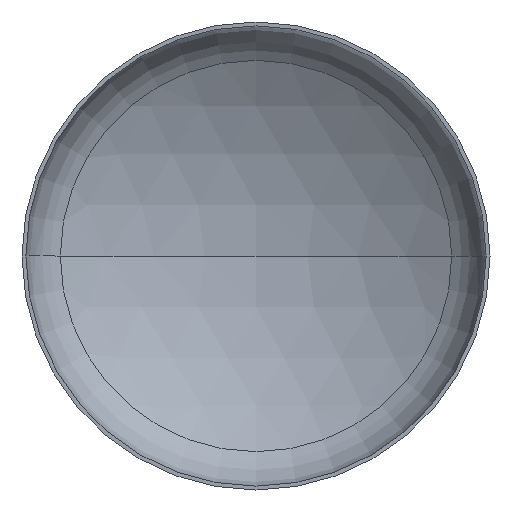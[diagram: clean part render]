
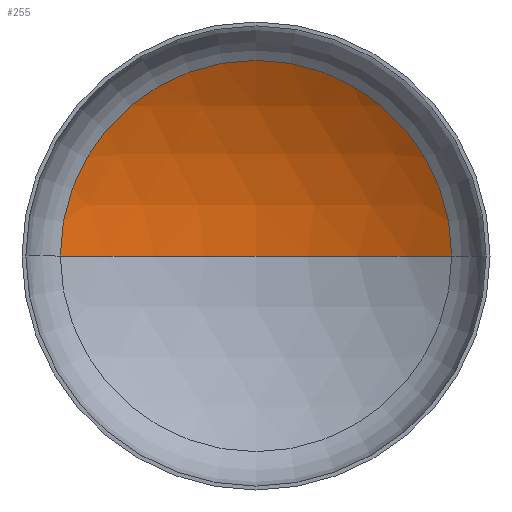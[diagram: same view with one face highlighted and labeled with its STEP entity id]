
A CAD part, front view. The second image highlights one B-rep face of the part: STEP entity #255.
In plain terms, the highlighted spherical face has radius 1920 mm.
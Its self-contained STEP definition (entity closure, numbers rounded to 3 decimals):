
#1 = AXIS2_PLACEMENT_3D ( 'NONE', #196, #371, #223 ) ;
#6 = AXIS2_PLACEMENT_3D ( 'NONE', #294, #296, #149 ) ;
#8 = EDGE_LOOP ( 'NONE', ( #31, #125, #121 ) ) ;
#10 = AXIS2_PLACEMENT_3D ( 'NONE', #284, #198, #406 ) ;
#15 = VERTEX_POINT ( 'NONE', #279 ) ;
#31 = ORIENTED_EDGE ( 'NONE', *, *, #353, .F. ) ;
#39 = AXIS2_PLACEMENT_3D ( 'NONE', #241, #336, #259 ) ;
#63 = VERTEX_POINT ( 'NONE', #237 ) ;
#120 = VERTEX_POINT ( 'NONE', #189 ) ;
#121 = ORIENTED_EDGE ( 'NONE', *, *, #380, .T. ) ;
#125 = ORIENTED_EDGE ( 'NONE', *, *, #375, .T. ) ;
#149 = DIRECTION ( 'NONE',  ( -1., 0., 0. ) ) ;
#155 = CIRCLE ( 'NONE', #10, 1920. ) ;
#189 = CARTESIAN_POINT ( 'NONE',  ( 0., 658.486, 0. ) ) ;
#194 = SPHERICAL_SURFACE ( 'NONE', #39, 1920. ) ;
#196 = CARTESIAN_POINT ( 'NONE',  ( 0., 375.458, 0. ) ) ;
#198 = DIRECTION ( 'NONE',  ( 0., 0., 1. ) ) ;
#223 = DIRECTION ( 'NONE',  ( 1., 0., 0. ) ) ;
#237 = CARTESIAN_POINT ( 'NONE',  ( -1003.355, 375.458, 0. ) ) ;
#241 = CARTESIAN_POINT ( 'NONE',  ( 0., -1261.514, 0. ) ) ;
#255 = ADVANCED_FACE ( 'NONE', ( #318 ), #194, .F. ) ;
#259 = DIRECTION ( 'NONE',  ( -1., 0., 0. ) ) ;
#279 = CARTESIAN_POINT ( 'NONE',  ( 1003.355, 375.458, 0. ) ) ;
#284 = CARTESIAN_POINT ( 'NONE',  ( 0., -1261.514, 0. ) ) ;
#294 = CARTESIAN_POINT ( 'NONE',  ( 0., -1261.514, 0. ) ) ;
#296 = DIRECTION ( 'NONE',  ( 0., 0., -1. ) ) ;
#318 = FACE_OUTER_BOUND ( 'NONE', #8, .T. ) ;
#336 = DIRECTION ( 'NONE',  ( 0., 0., -1. ) ) ;
#338 = CIRCLE ( 'NONE', #1, 1003.355 ) ;
#353 = EDGE_CURVE ( 'NONE', #120, #63, #155, .T. ) ;
#371 = DIRECTION ( 'NONE',  ( 0., -1., 0. ) ) ;
#375 = EDGE_CURVE ( 'NONE', #120, #15, #405, .T. ) ;
#380 = EDGE_CURVE ( 'NONE', #15, #63, #338, .T. ) ;
#405 = CIRCLE ( 'NONE', #6, 1920. ) ;
#406 = DIRECTION ( 'NONE',  ( 1., 0., 0. ) ) ;
